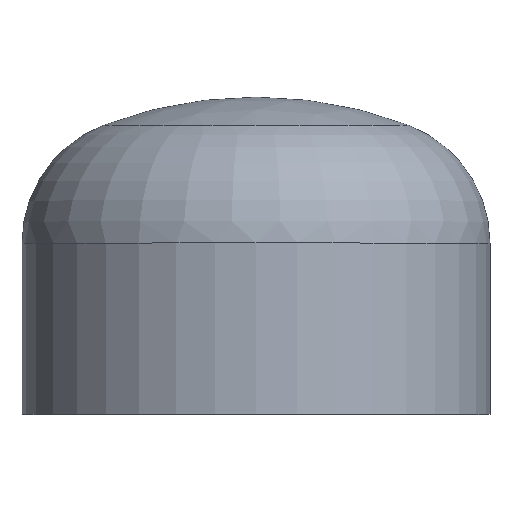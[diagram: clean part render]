
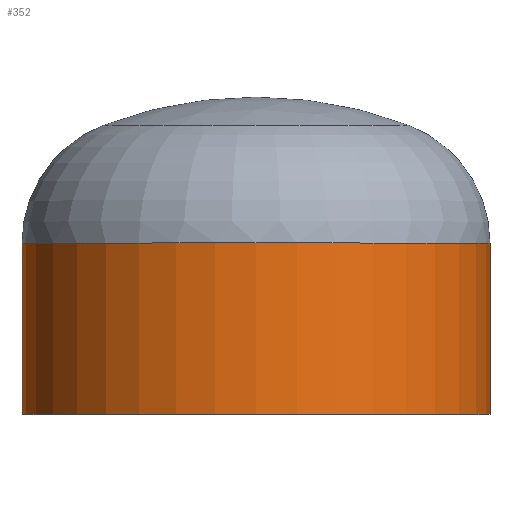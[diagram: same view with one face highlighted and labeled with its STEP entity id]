
A CAD part, top view. The second image highlights one B-rep face of the part: STEP entity #352.
In plain terms, the highlighted cylindrical face has radius 177.8 mm (diameter 355.6 mm), a partial arc.
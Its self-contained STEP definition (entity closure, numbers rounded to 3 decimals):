
#1 = AXIS2_PLACEMENT_3D ( 'NONE', #257, #254, #252 ) ;
#23 = AXIS2_PLACEMENT_3D ( 'NONE', #336, #277, #216 ) ;
#28 = EDGE_CURVE ( 'NONE', #149, #358, #364, .T. ) ;
#36 = EDGE_CURVE ( 'NONE', #358, #387, #212, .T. ) ;
#38 = FACE_OUTER_BOUND ( 'NONE', #54, .T. ) ;
#40 = CARTESIAN_POINT ( 'NONE',  ( -177.8, 130., 0. ) ) ;
#54 = EDGE_LOOP ( 'NONE', ( #339, #269, #90, #157 ) ) ;
#61 = CARTESIAN_POINT ( 'NONE',  ( 177.8, 0., 0. ) ) ;
#75 = LINE ( 'NONE', #126, #315 ) ;
#80 = DIRECTION ( 'NONE',  ( 1., 0., 0. ) ) ;
#83 = DIRECTION ( 'NONE',  ( 0., -1., 0. ) ) ;
#87 = AXIS2_PLACEMENT_3D ( 'NONE', #88, #83, #80 ) ;
#88 = CARTESIAN_POINT ( 'NONE',  ( 0., 0., 0. ) ) ;
#90 = ORIENTED_EDGE ( 'NONE', *, *, #36, .F. ) ;
#92 = CARTESIAN_POINT ( 'NONE',  ( 177.8, 0., 0. ) ) ;
#109 = CYLINDRICAL_SURFACE ( 'NONE', #87, 177.8 ) ;
#124 = CARTESIAN_POINT ( 'NONE',  ( -177.8, 0., 0. ) ) ;
#126 = CARTESIAN_POINT ( 'NONE',  ( -177.8, 0., 0. ) ) ;
#127 = VECTOR ( 'NONE', #401, 1000. ) ;
#149 = VERTEX_POINT ( 'NONE', #226 ) ;
#157 = ORIENTED_EDGE ( 'NONE', *, *, #28, .F. ) ;
#204 = EDGE_CURVE ( 'NONE', #256, #387, #75, .T. ) ;
#212 = CIRCLE ( 'NONE', #23, 177.8 ) ;
#216 = DIRECTION ( 'NONE',  ( 1., 0., 0. ) ) ;
#222 = EDGE_CURVE ( 'NONE', #149, #256, #326, .T. ) ;
#226 = CARTESIAN_POINT ( 'NONE',  ( 177.8, 130., 0. ) ) ;
#252 = DIRECTION ( 'NONE',  ( 1., 0., 0. ) ) ;
#254 = DIRECTION ( 'NONE',  ( 0., -1., 0. ) ) ;
#256 = VERTEX_POINT ( 'NONE', #40 ) ;
#257 = CARTESIAN_POINT ( 'NONE',  ( 0., 130., 0. ) ) ;
#269 = ORIENTED_EDGE ( 'NONE', *, *, #204, .T. ) ;
#277 = DIRECTION ( 'NONE',  ( 0., -1., 0. ) ) ;
#315 = VECTOR ( 'NONE', #390, 1000. ) ;
#326 = CIRCLE ( 'NONE', #1, 177.8 ) ;
#336 = CARTESIAN_POINT ( 'NONE',  ( 0., 0., 0. ) ) ;
#339 = ORIENTED_EDGE ( 'NONE', *, *, #222, .T. ) ;
#352 = ADVANCED_FACE ( 'NONE', ( #38 ), #109, .T. ) ;
#358 = VERTEX_POINT ( 'NONE', #92 ) ;
#364 = LINE ( 'NONE', #61, #127 ) ;
#387 = VERTEX_POINT ( 'NONE', #124 ) ;
#390 = DIRECTION ( 'NONE',  ( 0., -1., 0. ) ) ;
#401 = DIRECTION ( 'NONE',  ( 0., -1., 0. ) ) ;
